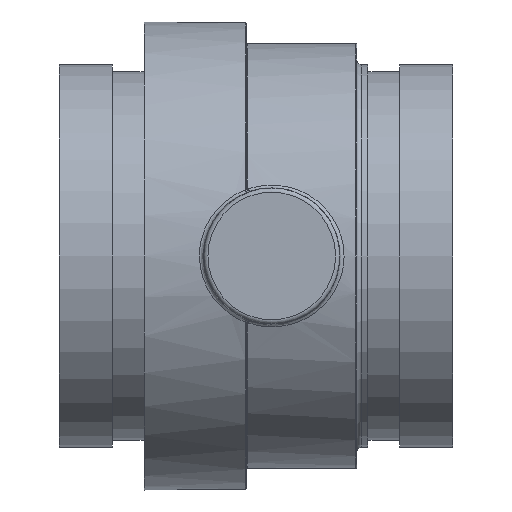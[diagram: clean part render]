
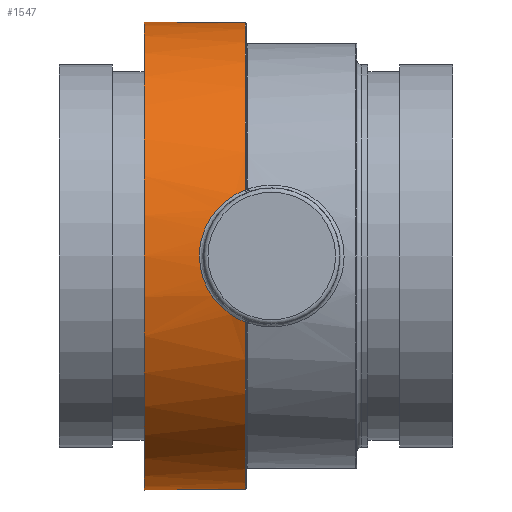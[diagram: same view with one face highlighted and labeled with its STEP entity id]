
A CAD part, front view. The second image highlights one B-rep face of the part: STEP entity #1547.
In plain terms, the highlighted cylindrical face has radius 69.85 mm (diameter 139.7 mm), a full revolution.
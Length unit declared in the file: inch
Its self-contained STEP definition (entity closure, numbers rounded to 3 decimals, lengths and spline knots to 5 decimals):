
#83=B_SPLINE_CURVE_WITH_KNOTS('',3,(#2901,#2902,#2903,#2904,#2905,#2906),
 .UNSPECIFIED.,.F.,.F.,(4,1,1,4),(-5.20796,-3.71997,-2.97597,
-2.60395),.UNSPECIFIED.);
#84=B_SPLINE_CURVE_WITH_KNOTS('',3,(#2907,#2908,#2909,#2910,#2911,#2912),
 .UNSPECIFIED.,.F.,.F.,(4,1,1,4),(-2.60395,-2.23198,-1.48799,
0.),.UNSPECIFIED.);
#90=B_SPLINE_CURVE_WITH_KNOTS('',3,(#3039,#3040,#3041,#3042,#3043),
 .UNSPECIFIED.,.F.,.F.,(4,1,4),(0.,0.13915,0.24352),
 .UNSPECIFIED.);
#91=B_SPLINE_CURVE_WITH_KNOTS('',3,(#3047,#3048,#3049,#3050,#3051),
 .UNSPECIFIED.,.F.,.F.,(4,1,4),(0.,0.10436,0.24352),
 .UNSPECIFIED.);
#197=FACE_OUTER_BOUND('',#291,.T.);
#291=EDGE_LOOP('',(#1181,#1182,#1183,#1184,#1185,#1186,#1187,#1188,#1189,
#1190,#1191,#1192,#1193));
#395=LINE('',#3037,#460);
#396=LINE('',#3053,#461);
#397=LINE('',#3056,#462);
#460=VECTOR('',#2079,0.3937);
#461=VECTOR('',#2082,0.3937);
#462=VECTOR('',#2085,2.75);
#533=CIRCLE('',#1710,2.75);
#534=CIRCLE('',#1711,2.75);
#535=CIRCLE('',#1712,2.75);
#536=CIRCLE('',#1713,2.75);
#537=CIRCLE('',#1714,2.75);
#663=VERTEX_POINT('',#2843);
#665=VERTEX_POINT('',#2898);
#666=VERTEX_POINT('',#2900);
#686=VERTEX_POINT('',#3034);
#687=VERTEX_POINT('',#3036);
#688=VERTEX_POINT('',#3038);
#689=VERTEX_POINT('',#3044);
#690=VERTEX_POINT('',#3046);
#691=VERTEX_POINT('',#3052);
#692=VERTEX_POINT('',#3055);
#693=VERTEX_POINT('',#3057);
#837=EDGE_CURVE('',#665,#666,#83,.T.);
#838=EDGE_CURVE('',#666,#663,#84,.T.);
#870=EDGE_CURVE('',#686,#665,#533,.T.);
#871=EDGE_CURVE('',#687,#686,#395,.T.);
#872=EDGE_CURVE('',#688,#687,#90,.T.);
#873=EDGE_CURVE('',#689,#688,#534,.T.);
#874=EDGE_CURVE('',#690,#689,#91,.T.);
#875=EDGE_CURVE('',#691,#690,#396,.T.);
#876=EDGE_CURVE('',#663,#691,#535,.T.);
#877=EDGE_CURVE('',#666,#692,#397,.T.);
#878=EDGE_CURVE('',#692,#693,#536,.T.);
#879=EDGE_CURVE('',#693,#692,#537,.T.);
#1181=ORIENTED_EDGE('',*,*,#837,.F.);
#1182=ORIENTED_EDGE('',*,*,#870,.F.);
#1183=ORIENTED_EDGE('',*,*,#871,.F.);
#1184=ORIENTED_EDGE('',*,*,#872,.F.);
#1185=ORIENTED_EDGE('',*,*,#873,.F.);
#1186=ORIENTED_EDGE('',*,*,#874,.F.);
#1187=ORIENTED_EDGE('',*,*,#875,.F.);
#1188=ORIENTED_EDGE('',*,*,#876,.F.);
#1189=ORIENTED_EDGE('',*,*,#838,.F.);
#1190=ORIENTED_EDGE('',*,*,#877,.T.);
#1191=ORIENTED_EDGE('',*,*,#878,.T.);
#1192=ORIENTED_EDGE('',*,*,#879,.T.);
#1193=ORIENTED_EDGE('',*,*,#877,.F.);
#1394=CYLINDRICAL_SURFACE('',#1709,2.75);
#1547=ADVANCED_FACE('',(#197),#1394,.T.);
#1709=AXIS2_PLACEMENT_3D('',#3033,#2075,#2076);
#1710=AXIS2_PLACEMENT_3D('',#3035,#2077,#2078);
#1711=AXIS2_PLACEMENT_3D('',#3045,#2080,#2081);
#1712=AXIS2_PLACEMENT_3D('',#3054,#2083,#2084);
#1713=AXIS2_PLACEMENT_3D('',#3058,#2086,#2087);
#1714=AXIS2_PLACEMENT_3D('',#3059,#2088,#2089);
#2075=DIRECTION('center_axis',(1.,0.,0.));
#2076=DIRECTION('ref_axis',(0.,1.,0.));
#2077=DIRECTION('center_axis',(1.,0.,0.));
#2078=DIRECTION('ref_axis',(0.,-1.,0.));
#2079=DIRECTION('',(1.,0.,0.));
#2080=DIRECTION('center_axis',(1.,0.,0.));
#2081=DIRECTION('ref_axis',(0.,1.,0.));
#2082=DIRECTION('',(-1.,0.,0.));
#2083=DIRECTION('center_axis',(1.,0.,0.));
#2084=DIRECTION('ref_axis',(0.,-1.,0.));
#2085=DIRECTION('',(-1.,0.,0.));
#2086=DIRECTION('center_axis',(1.,0.,0.));
#2087=DIRECTION('ref_axis',(0.,0.,1.));
#2088=DIRECTION('center_axis',(1.,0.,0.));
#2089=DIRECTION('ref_axis',(0.,0.,1.));
#2843=CARTESIAN_POINT('',(-0.31,-2.63785,-0.77732));
#2898=CARTESIAN_POINT('',(-0.31,-2.63785,0.77732));
#2900=CARTESIAN_POINT('',(-0.85,-2.75,0.));
#2901=CARTESIAN_POINT('Ctrl Pts',(-0.31,-2.63785,0.77732));
#2902=CARTESIAN_POINT('Ctrl Pts',(-0.49078,-2.65835,0.70778));
#2903=CARTESIAN_POINT('Ctrl Pts',(-0.72082,-2.71191,
0.51123));
#2904=CARTESIAN_POINT('Ctrl Pts',(-0.83744,-2.74633,
0.19177));
#2905=CARTESIAN_POINT('Ctrl Pts',(-0.84992,-2.74999,0.04794));
#2906=CARTESIAN_POINT('Ctrl Pts',(-0.84991,-2.74998,0.));
#2907=CARTESIAN_POINT('Ctrl Pts',(-0.84991,-2.74998,0.));
#2908=CARTESIAN_POINT('Ctrl Pts',(-0.84991,-2.74998,-0.04794));
#2909=CARTESIAN_POINT('Ctrl Pts',(-0.8374,-2.74628,-0.19176));
#2910=CARTESIAN_POINT('Ctrl Pts',(-0.72084,-2.71197,
-0.51126));
#2911=CARTESIAN_POINT('Ctrl Pts',(-0.49078,-2.65835,
-0.70778));
#2912=CARTESIAN_POINT('Ctrl Pts',(-0.31,-2.63785,
-0.77732));
#3033=CARTESIAN_POINT('Origin',(-0.9,0.,0.));
#3034=CARTESIAN_POINT('',(-0.31,2.64931,0.73732));
#3035=CARTESIAN_POINT('Origin',(-0.31,0.,0.));
#3036=CARTESIAN_POINT('',(-0.52,2.64931,0.73732));
#3037=CARTESIAN_POINT('',(-0.9,2.64931,0.73732));
#3038=CARTESIAN_POINT('',(-0.58,2.66523,0.67754));
#3039=CARTESIAN_POINT('Ctrl Pts',(-0.58,2.66523,0.67754));
#3040=CARTESIAN_POINT('Ctrl Pts',(-0.58,2.66075,0.69517));
#3041=CARTESIAN_POINT('Ctrl Pts',(-0.56551,2.65255,0.72584));
#3042=CARTESIAN_POINT('Ctrl Pts',(-0.5337,2.64931,0.73732));
#3043=CARTESIAN_POINT('Ctrl Pts',(-0.52,2.64931,0.73732));
#3044=CARTESIAN_POINT('',(-0.58,2.66523,-0.67754));
#3045=CARTESIAN_POINT('Origin',(-0.58,0.,0.));
#3046=CARTESIAN_POINT('',(-0.52,2.64931,-0.73732));
#3047=CARTESIAN_POINT('Ctrl Pts',(-0.52,2.64931,-0.73732));
#3048=CARTESIAN_POINT('Ctrl Pts',(-0.5337,2.64931,-0.73732));
#3049=CARTESIAN_POINT('Ctrl Pts',(-0.56551,2.65255,-0.72584));
#3050=CARTESIAN_POINT('Ctrl Pts',(-0.58,2.66075,-0.69517));
#3051=CARTESIAN_POINT('Ctrl Pts',(-0.58,2.66523,-0.67754));
#3052=CARTESIAN_POINT('',(-0.31,2.64931,-0.73732));
#3053=CARTESIAN_POINT('',(-0.9,2.64931,-0.73732));
#3054=CARTESIAN_POINT('Origin',(-0.31,0.,0.));
#3055=CARTESIAN_POINT('',(-1.5,-2.75,0.));
#3056=CARTESIAN_POINT('',(-0.9,-2.75,0.));
#3057=CARTESIAN_POINT('',(-1.5,2.75,0.));
#3058=CARTESIAN_POINT('Origin',(-1.5,0.,0.));
#3059=CARTESIAN_POINT('Origin',(-1.5,0.,0.));
